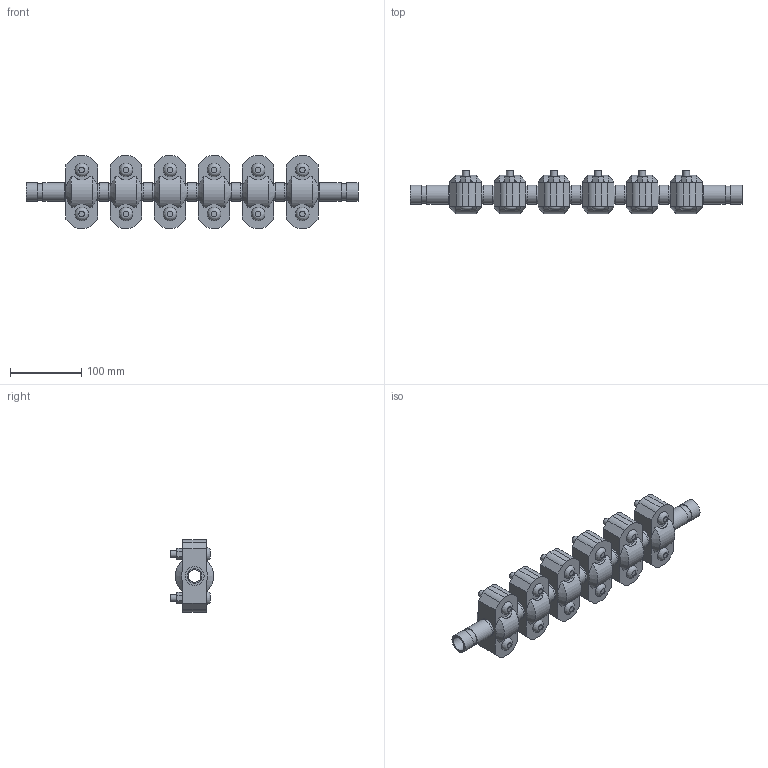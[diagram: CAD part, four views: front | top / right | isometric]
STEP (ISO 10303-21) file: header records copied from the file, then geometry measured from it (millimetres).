
FILE_DESCRIPTION(/* description */ ('VIC EXPANSION JOINT 6 COUPLINGS EXPANDED STYLE 155 (OGS)','CAx-IF Rec.Pracs.---Representation and Presentation of Product Manufacturing Information (PMI)---4.0---2014-10-13'),/* implementation_level */ '2;1');
FILE_NAME(/* name */ 'C:\Users\kkamble\AppData\Roaming\Autodesk\ApplicationPlugins\Victaulic.Temp\A6\Victaulic_IPS_Expansion Joint_Expanded_6 Couplings_Style 155 (OGS)_0.75 (20).stp',/* time_stamp */ '2021-06-27T00:04:05+02:00',/* author */ ('kkamble'),/* organization */ ('Victaulic'),/* preprocessor_version */ 'ST-DEVELOPER v17.2',/* originating_system */ 'Autodesk Inventor 2019',/* authorisation */ '');
FILE_SCHEMA (('AP242_MANAGED_MODEL_BASED_3D_ENGINEERING_MIM_LF { 1 0 10303 442 1 1 4 }'));
Length unit declared in the file: inch
Products named in the file (4): 155-0.75; Nipple-0.75; Nipple-0.75_1; 077-0.75
Assembly tree (13 placements, depth 2):
  155-0.75
    Nipple-0.75  x2
    Nipple-0.75_1  x5
    077-0.75  x6
Bounding box: 466.6 x 61.1 x 101.6 mm (x, y, z)
Volume: 933403.8 mm3; surface area: 239839.7 mm2
Topology: 13 solids, 25 shells, 450 faces, 1080 edges, 756 vertices
Faces by surface type: plane 258, cylinder 156, cone 24, bspline 12
Full cylindrical faces by diameter (mm): 9.525 x24, 11.43 x12, 17.78 x6, 20.93 x7, 23.825 x14, 26.67 x33
Entity records: 3017 total; most frequent: CARTESIAN_POINT 589, DIRECTION 489, ORIENTED_EDGE 410, EDGE_CURVE 205, AXIS2_PLACEMENT_3D 196, VERTEX_POINT 146, EDGE_LOOP 111, LINE 97
